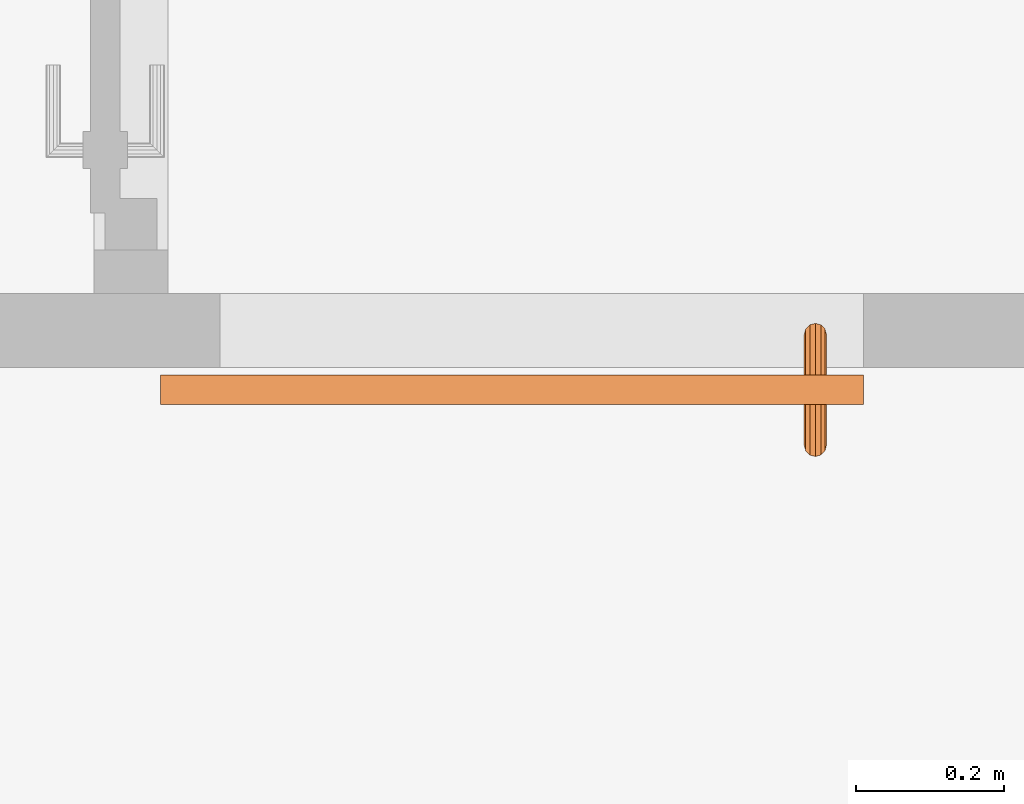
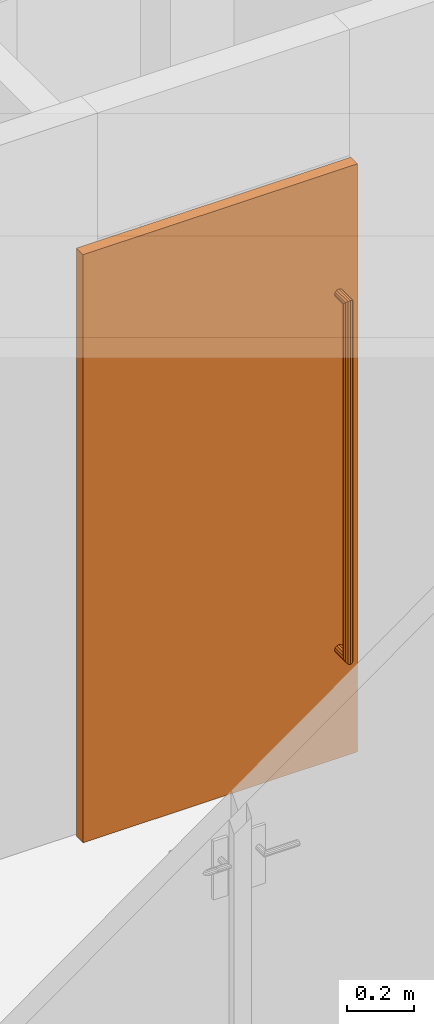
"""IFC4 building model written with IfcOpenShell, lengths in metres."""

from ifc_helpers import new_model, entity, si_unit, converted_unit, derived_unit, frame, origin, origin_with_axes, place, context, subcontext, project, spatial, faceted_brep, source, transform, mapped, element, save


model = new_model("IFC4")

# Units and contexts
model_context = context("Model", 3, precision=1e-05, world=origin())
body_context = subcontext(model_context, "Body", "Model", "MODEL_VIEW")
ifc_project = project(units=[si_unit("LENGTHUNIT", "METRE"), si_unit("AREAUNIT", "SQUARE_METRE"), si_unit("VOLUMEUNIT", "CUBIC_METRE"), si_unit("MASSUNIT", "GRAM", prefix="KILO"), converted_unit("PLANEANGLEUNIT", "DEGREE", entity("IfcPlaneAngleMeasure", 0.0174532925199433), si_unit("PLANEANGLEUNIT", "RADIAN"), dimensions=[0, 0, 0, 0, 0, 0, 0]), derived_unit("THERMALTRANSMITTANCEUNIT", [(si_unit("POWERUNIT", "WATT"), 1), (si_unit("THERMODYNAMICTEMPERATUREUNIT", "KELVIN"), -1), (si_unit("LENGTHUNIT", "METRE"), -2)]), derived_unit("VOLUMETRICFLOWRATEUNIT", [(si_unit("LENGTHUNIT", "METRE"), 3), (converted_unit("TIMEUNIT", "hour", entity("IfcTimeMeasure", 3600.0), si_unit("TIMEUNIT", "SECOND"), dimensions=[0, 0, 1, 0, 0, 0, 0]), -1), (si_unit("LENGTHUNIT", "METRE"), -1)])], contexts=[model_context])

# Building, storeys
building_placement = place(None, origin())
building = spatial("IfcBuilding", under=ifc_project, at=building_placement, Name="HABITATGE PLURIFAMILIAR", CompositionType="ELEMENT")
storey_1_placement = place(building_placement, frame((0.0, 0.0, 15.28)))
storey_1 = spatial("IfcBuildingStorey", under=building, at=storey_1_placement, Name="PLANTA QUARTA", CompositionType="ELEMENT", Elevation=15.28)
storey_2_placement = place(storey_1_placement, frame((0.0, 0.0, 12.27)))
storey_2 = spatial("IfcBuildingStorey", under=storey_1, at=storey_2_placement, Name="NOU", CompositionType="PARTIAL")

# Proxy
shared_shape = source(origin_with_axes(), body_context, "Body", "Brep", [
    faceted_brep([(0.0, 0.11, 2.15), (0.0, 0.11, 0.0), (0.95, 0.11, 0.0), (0.95, 0.11, 2.15), (0.0, 0.0699999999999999, 0.0), (0.0, 0.0700000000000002, 2.15), (0.95, 0.0700000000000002, 2.15), (0.95, 0.0699999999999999, 0.0)], [[[0, 1, 2, 3]], [[4, 5, 6, 7]], [[1, 0, 5, 4]], [[2, 1, 4, 7]], [[3, 2, 7, 6]], [[0, 3, 6, 5]]], orient=[[False], [False], [False], [False], [False], [False]]),
    faceted_brep([(0.08, 0.0700000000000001, 1.7), (0.0779903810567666, 0.0700000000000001, 1.7075), (0.0725, 0.0700000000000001, 1.71299038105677), (0.065, 0.0700000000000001, 1.715), (0.0575, 0.0700000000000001, 1.71299038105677), (0.0520096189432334, 0.0700000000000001, 1.7075), (0.05, 0.0700000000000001, 1.7), (0.0520096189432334, 0.0700000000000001, 1.6925), (0.0575, 0.0700000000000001, 1.68700961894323), (0.065, 0.0700000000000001, 1.685), (0.0725, 0.0700000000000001, 1.68700961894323), (0.0779903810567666, 0.0700000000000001, 1.6925), (0.08, 0.0150000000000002, 1.7), (0.0779903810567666, 0.00750000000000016, 1.7075), (0.0725, 0.00200961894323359, 1.71299038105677), (0.065, 0.0, 1.715), (0.0575, 0.00200961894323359, 1.71299038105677), (0.0520096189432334, 0.00750000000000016, 1.7075), (0.05, 0.0150000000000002, 1.7), (0.0520096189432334, 0.0225000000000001, 1.6925), (0.0575, 0.0279903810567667, 1.68700961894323), (0.065, 0.0300000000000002, 1.685), (0.0725, 0.0279903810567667, 1.68700961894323), (0.0779903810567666, 0.0225000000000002, 1.6925), (0.08, 0.015, 0.4), (0.0779903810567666, 0.00749999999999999, 0.3925), (0.0725, 0.00200961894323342, 0.387009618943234), (0.065, 0.0, 0.385), (0.0575, 0.00200961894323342, 0.387009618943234), (0.0520096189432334, 0.00749999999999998, 0.3925), (0.05, 0.015, 0.4), (0.0520096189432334, 0.0225, 0.4075), (0.0575, 0.0279903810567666, 0.412990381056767), (0.065, 0.03, 0.415), (0.0725, 0.0279903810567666, 0.412990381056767), (0.0779903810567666, 0.0225, 0.4075), (0.0800000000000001, 0.07, 0.4), (0.0779903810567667, 0.07, 0.4075), (0.0725000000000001, 0.07, 0.412990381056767), (0.0650000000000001, 0.07, 0.415), (0.0575000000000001, 0.07, 0.412990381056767), (0.0520096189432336, 0.07, 0.4075), (0.0500000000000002, 0.07, 0.4), (0.0520096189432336, 0.07, 0.3925), (0.0575000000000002, 0.07, 0.387009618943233), (0.0650000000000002, 0.07, 0.385), (0.0725000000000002, 0.07, 0.387009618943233), (0.0779903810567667, 0.07, 0.3925)], [[[0, 1, 2, 3, 4, 5, 6, 7, 8, 9, 10, 11]], [[0, 12, 13, 1]], [[1, 13, 14, 2]], [[2, 14, 15, 3]], [[3, 15, 16, 4]], [[4, 16, 17, 5]], [[5, 17, 18, 6]], [[6, 18, 19, 7]], [[7, 19, 20, 8]], [[8, 20, 21, 9]], [[9, 21, 22, 10]], [[10, 22, 23, 11]], [[11, 23, 12, 0]], [[12, 24, 25, 13]], [[13, 25, 26, 14]], [[14, 26, 27, 15]], [[15, 27, 28, 16]], [[16, 28, 29, 17]], [[17, 29, 30, 18]], [[18, 30, 31, 19]], [[19, 31, 32, 20]], [[20, 32, 33, 21]], [[21, 33, 34, 22]], [[22, 34, 35, 23]], [[23, 35, 24, 12]], [[36, 37, 38, 39, 40, 41, 42, 43, 44, 45, 46, 47]], [[24, 36, 47, 25]], [[25, 47, 46, 26]], [[26, 46, 45, 27]], [[27, 45, 44, 28]], [[28, 44, 43, 29]], [[29, 43, 42, 30]], [[30, 42, 41, 31]], [[31, 41, 40, 32]], [[32, 40, 39, 33]], [[33, 39, 38, 34]], [[34, 38, 37, 35]], [[35, 37, 36, 24]]], orient=[[False], [False], [False], [False], [False], [False], [False], [False], [False], [False], [False], [False], [False], [False], [False], [False], [False], [False], [False], [False], [False], [False], [False], [False], [False], [False], [False], [False], [False], [False], [False], [False], [False], [False], [False], [False], [False], [False]]),
    faceted_brep([(0.08, 0.11, 1.7), (0.0779903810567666, 0.11, 1.6925), (0.0725, 0.11, 1.68700961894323), (0.065, 0.11, 1.685), (0.0575, 0.11, 1.68700961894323), (0.0520096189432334, 0.11, 1.6925), (0.05, 0.11, 1.7), (0.0520096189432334, 0.11, 1.7075), (0.0575, 0.11, 1.71299038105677), (0.065, 0.11, 1.715), (0.0725, 0.11, 1.71299038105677), (0.0779903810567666, 0.11, 1.7075), (0.0779903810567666, 0.1725, 1.7075), (0.08, 0.165, 1.7), (0.0725, 0.177990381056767, 1.71299038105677), (0.065, 0.18, 1.715), (0.0575, 0.177990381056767, 1.71299038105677), (0.0520096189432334, 0.1725, 1.7075), (0.05, 0.165, 1.7), (0.0520096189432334, 0.1575, 1.6925), (0.0575, 0.152009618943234, 1.68700961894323), (0.065, 0.15, 1.685), (0.0725, 0.152009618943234, 1.68700961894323), (0.0779903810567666, 0.1575, 1.6925), (0.0779903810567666, 0.1725, 0.3925), (0.08, 0.165, 0.4), (0.0725, 0.177990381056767, 0.387009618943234), (0.065, 0.18, 0.385), (0.0575, 0.177990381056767, 0.387009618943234), (0.0520096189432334, 0.1725, 0.3925), (0.05, 0.165, 0.4), (0.0520096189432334, 0.1575, 0.4075), (0.0575, 0.152009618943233, 0.412990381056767), (0.065, 0.15, 0.415), (0.0725, 0.152009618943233, 0.412990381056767), (0.0779903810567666, 0.1575, 0.4075), (0.0800000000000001, 0.11, 0.4), (0.0779903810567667, 0.11, 0.3925), (0.0725000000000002, 0.11, 0.387009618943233), (0.0650000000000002, 0.11, 0.385), (0.0575000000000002, 0.11, 0.387009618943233), (0.0520096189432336, 0.11, 0.3925), (0.0500000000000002, 0.11, 0.4), (0.0520096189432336, 0.11, 0.4075), (0.0575000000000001, 0.11, 0.412990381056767), (0.0650000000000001, 0.11, 0.415), (0.0725000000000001, 0.11, 0.412990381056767), (0.0779903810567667, 0.11, 0.4075)], [[[0, 1, 2, 3, 4, 5, 6, 7, 8, 9, 10, 11]], [[0, 11, 12, 13]], [[11, 10, 14, 12]], [[10, 9, 15, 14]], [[9, 8, 16, 15]], [[8, 7, 17, 16]], [[7, 6, 18, 17]], [[6, 5, 19, 18]], [[5, 4, 20, 19]], [[4, 3, 21, 20]], [[3, 2, 22, 21]], [[2, 1, 23, 22]], [[1, 0, 13, 23]], [[13, 12, 24, 25]], [[12, 14, 26, 24]], [[14, 15, 27, 26]], [[15, 16, 28, 27]], [[16, 17, 29, 28]], [[17, 18, 30, 29]], [[18, 19, 31, 30]], [[19, 20, 32, 31]], [[20, 21, 33, 32]], [[21, 22, 34, 33]], [[22, 23, 35, 34]], [[23, 13, 25, 35]], [[36, 37, 38, 39, 40, 41, 42, 43, 44, 45, 46, 47]], [[25, 24, 37, 36]], [[24, 26, 38, 37]], [[26, 27, 39, 38]], [[27, 28, 40, 39]], [[28, 29, 41, 40]], [[29, 30, 42, 41]], [[30, 31, 43, 42]], [[31, 32, 44, 43]], [[32, 33, 45, 44]], [[33, 34, 46, 45]], [[34, 35, 47, 46]], [[35, 25, 36, 47]]], orient=[[False], [False], [False], [False], [False], [False], [False], [False], [False], [False], [False], [False], [False], [False], [False], [False], [False], [False], [False], [False], [False], [False], [False], [False], [False], [False], [False], [False], [False], [False], [False], [False], [False], [False], [False], [False], [False], [False]]),
])
proxy_placement = place(storey_2_placement, frame((409.926984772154, 25.8894598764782, -12.27), z_axis=(0.0, 0.0, 1.0), x_axis=(-1.0, 1.22464679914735e-16, 0.0)))
element("IfcBuildingElementProxy", 1, at=proxy_placement, inside=storey_2, Name="Porta P4", context=body_context, shape_type="MappedRepresentation", body=[
    mapped(shared_shape, transform((0.0, 0.0, 0.0), x_axis=(1.0, 0.0, 0.0), y_axis=(0.0, 1.0, 0.0), z_axis=(0.0, 0.0, 1.0), scale=1.0)),
])

save(model, "model.ifc")
